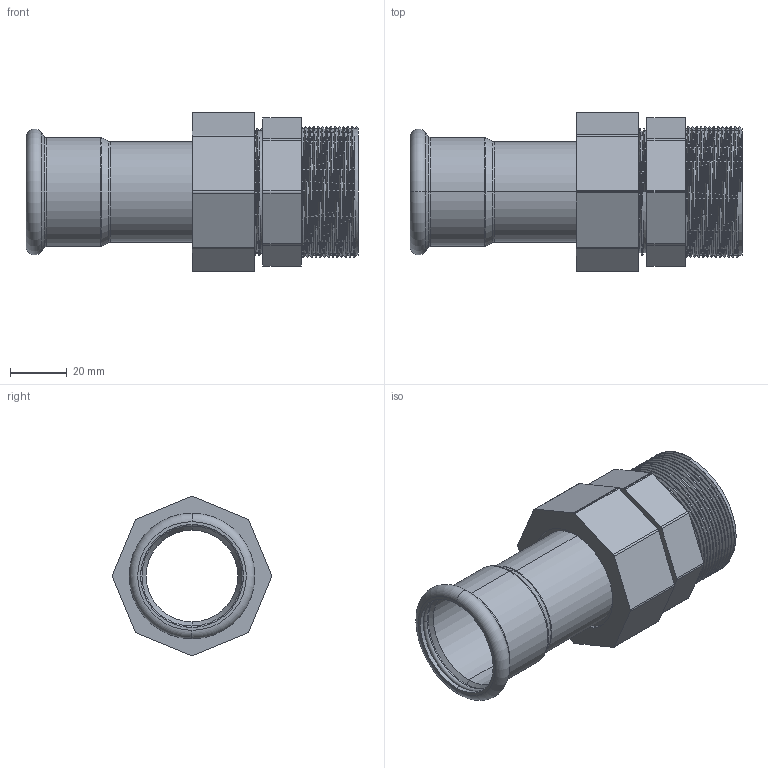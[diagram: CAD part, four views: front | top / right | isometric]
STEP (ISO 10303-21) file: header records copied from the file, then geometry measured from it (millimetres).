
FILE_DESCRIPTION (( 'STEP AP214' ), '1' );
FILE_NAME ('M35400K.STEP', '2025-08-17T07:03:01', ( '' ), ( '' ), 'SwSTEP 2.0', 'SolidWorks 2020', '' );
FILE_SCHEMA (( 'AUTOMOTIVE_DESIGN' ));
Length unit declared in the file: millimetre
Products named in the file (1): M35400K
Bounding box: 117 x 56.11 x 56.12 mm (x, y, z)
Volume: 48097.1 mm3; surface area: 43249.8 mm2
Topology: 3 solids, 3 shells, 158 faces, 405 edges, 257 vertices
Faces by surface type: cylinder 94, plane 31, torus 14, cone 10, bspline 9
Entity records: 11070 total; most frequent: CARTESIAN_POINT 5759, ORIENTED_EDGE 810, DIRECTION 685, EDGE_CURVE 405, AXIS2_PLACEMENT_3D 260, VERTEX_POINT 257, EDGE_LOOP 168, VECTOR 165
